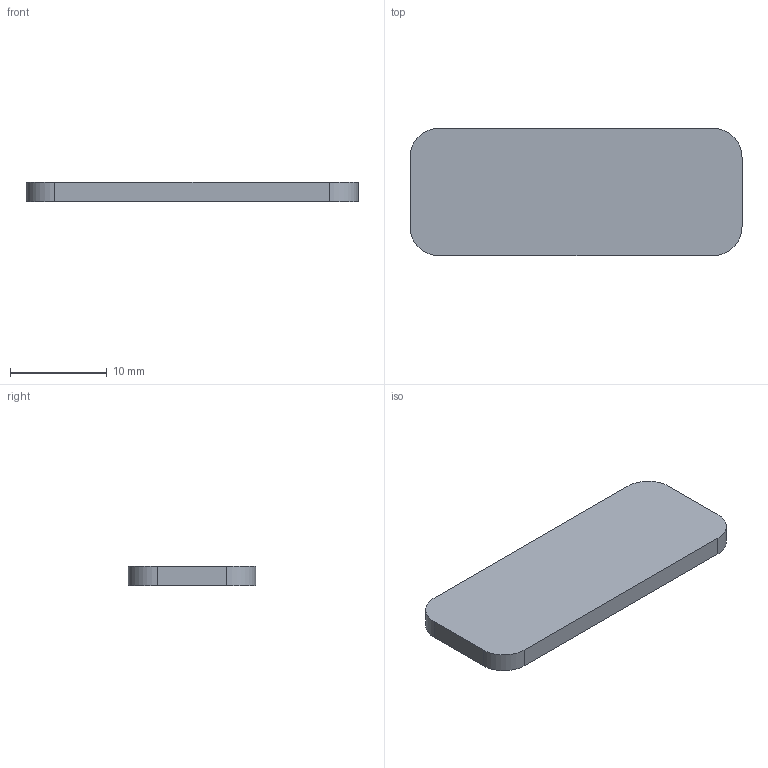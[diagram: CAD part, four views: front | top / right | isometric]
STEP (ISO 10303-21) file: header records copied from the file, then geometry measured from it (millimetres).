
FILE_DESCRIPTION(('Open CASCADE Model'),'2;1');
FILE_NAME('Open CASCADE Shape Model','2026-09-06T11:23:49',('Author'),( 'Open CASCADE'),'Open CASCADE STEP processor 7.7','Open CASCADE 7.7' ,'Unknown');
FILE_SCHEMA(('AUTOMOTIVE_DESIGN { 1 0 10303 214 1 1 1 1 }'));
Length unit declared in the file: millimetre
Products named in the file (1): Open CASCADE STEP translator 7.7 26
Bounding box: 34.4 x 13.2 x 2 mm (x, y, z)
Volume: 892.7 mm3; surface area: 1072.8 mm2
Topology: 1 solids, 1 shells, 10 faces, 24 edges, 16 vertices
Faces by surface type: plane 6, cylinder 4
Entity records: 630 total; most frequent: CARTESIAN_POINT 123, DIRECTION 98, LINE 56, VECTOR 56, ORIENTED_EDGE 48, PCURVE 48, DEFINITIONAL_REPRESENTATION 48, EDGE_CURVE 24
